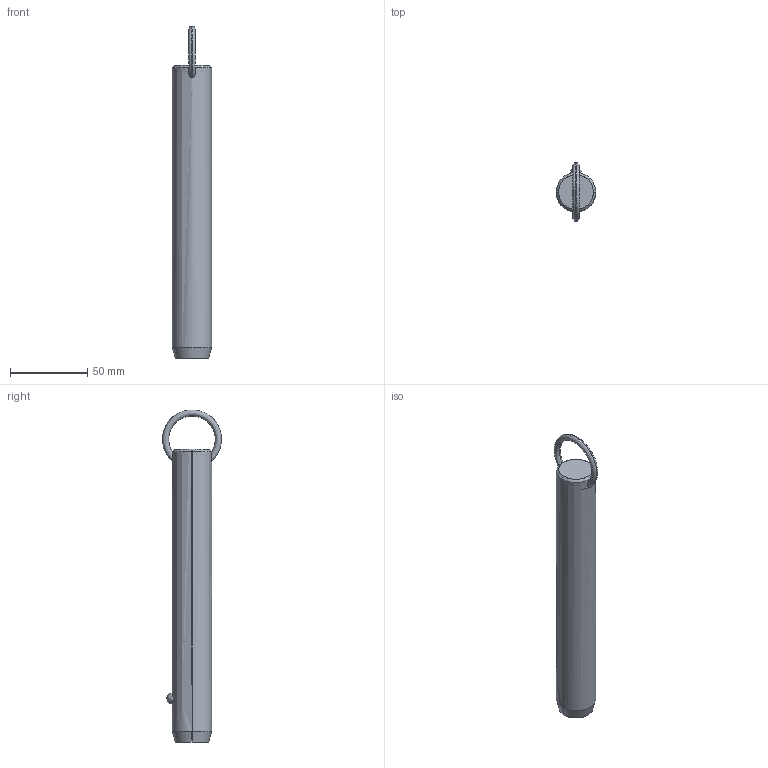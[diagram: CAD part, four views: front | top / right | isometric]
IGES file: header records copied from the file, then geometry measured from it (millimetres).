
Start section: SolidWorks IGES file using analytic representation for surfaces
Global section: file name: C:\Users\liam_\OneDrive\Documents\WORK\Work for WixRoyd\Job Files\J-00019 - Matt Davis CAD Checking\04. CAD Drawings\automotion20190605\P1250.2_v2\P1250.2_v2_20190729_IGES\P1250.100-570.igs; native system: SolidWorks 2017; preprocessor: SolidWorks 2017; author: liam_; date: 190730.174510; units: millimetre
Bounding box: 25.4 x 38.09 x 214.59 mm (x, y, z)
Surface area: 16870.8 mm2 (no closed solid volume)
Topology: 0 solids, 0 shells, 12 faces, 298 edges, 296 vertices
Faces by surface type: revolution 8, bspline 4
